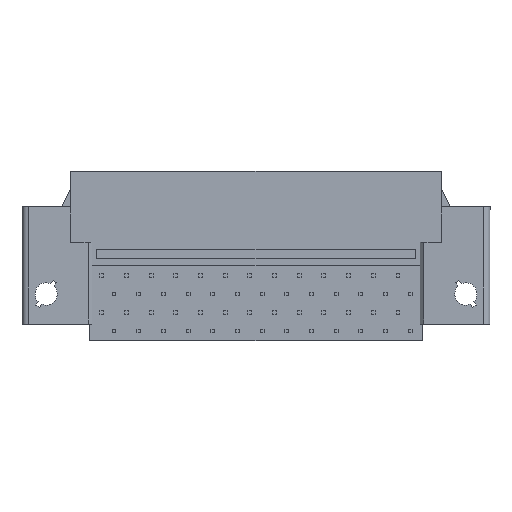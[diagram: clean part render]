
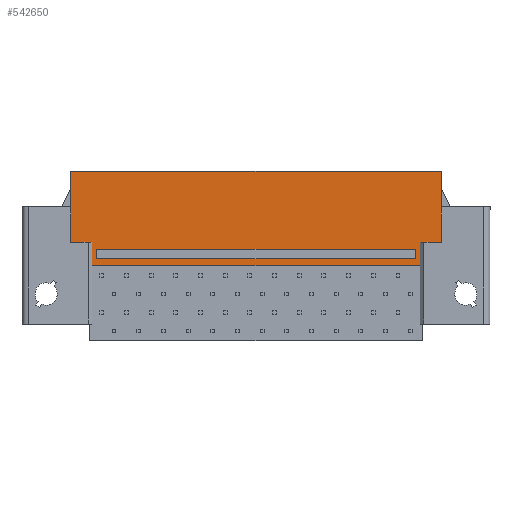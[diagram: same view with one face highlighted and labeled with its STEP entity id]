
A CAD part, front view. The second image highlights one B-rep face of the part: STEP entity #542650.
In plain terms, the highlighted planar face has unit normal (0, -1, 0).
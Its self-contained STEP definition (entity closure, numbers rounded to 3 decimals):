
#3510=CARTESIAN_POINT('',(-56.69,8.036,15.7));
#3520=VERTEX_POINT('',#3510);
#3690=CARTESIAN_POINT('',(-18.54,8.036,15.7));
#3700=VERTEX_POINT('',#3690);
#3730=CARTESIAN_POINT('',(-5.08,8.036,15.7));
#3740=DIRECTION('',(-1.,0.,0.));
#3750=VECTOR('',#3740,1.);
#3760=LINE('',#3730,#3750);
#3770=EDGE_CURVE('',#3700,#3520,#3760,.T.);
#30800=CARTESIAN_POINT('',(-18.54,8.036,12.05));
#30810=VERTEX_POINT('',#30800);
#87620=CARTESIAN_POINT('',(-54.49,8.036,
8.4));
#87630=VERTEX_POINT('',#87620);
#87660=CARTESIAN_POINT('',(-54.49,8.036,0.));
#87670=DIRECTION('',(0.,0.,1.));
#87680=VECTOR('',#87670,1.);
#87690=LINE('',#87660,#87680);
#87700=CARTESIAN_POINT('',(-54.49,8.036,6.));
#87710=VERTEX_POINT('',#87700);
#87720=EDGE_CURVE('',#87710,#87630,#87690,.T.);
#89480=CARTESIAN_POINT('',(-56.69,8.036,0.));
#89490=DIRECTION('',(0.,0.,-1.));
#89500=VECTOR('',#89490,1.);
#89510=LINE('',#89480,#89500);
#89520=CARTESIAN_POINT('',(-56.69,8.036,12.05));
#89530=VERTEX_POINT('',#89520);
#89540=EDGE_CURVE('',#3520,#89530,#89510,.T.);
#107060=CARTESIAN_POINT('',(-53.99,8.036,0.));
#107070=DIRECTION('',(0.,0.,-1.));
#107080=VECTOR('',#107070,1.);
#107090=LINE('',#107060,#107080);
#107100=CARTESIAN_POINT('',(-53.99,8.036,
7.7));
#107110=VERTEX_POINT('',#107100);
#107120=CARTESIAN_POINT('',(-53.99,8.036,
6.7));
#107130=VERTEX_POINT('',#107120);
#107140=EDGE_CURVE('',#107110,#107130,#107090,.T.);
#107630=CARTESIAN_POINT('',(-54.49,8.036,
8.4));
#107640=DIRECTION('',(-1.,0.,0.));
#107650=VECTOR('',#107640,1.);
#107660=LINE('',#107630,#107650);
#107670=CARTESIAN_POINT('',(-56.69,8.036,
8.4));
#107680=VERTEX_POINT('',#107670);
#107690=EDGE_CURVE('',#87630,#107680,#107660,.T.);
#294710=CARTESIAN_POINT('',(-56.69,8.036,0.));
#294720=DIRECTION('',(0.,0.,1.));
#294730=VECTOR('',#294720,1.);
#294740=LINE('',#294710,#294730);
#294750=EDGE_CURVE('',#107680,#89530,#294740,.T.);
#541810=CARTESIAN_POINT('',(7.62,8.036,6.));
#541820=DIRECTION('',(1.,0.,0.));
#541830=VECTOR('',#541820,1.);
#541840=LINE('',#541810,#541830);
#541850=CARTESIAN_POINT('',(-20.74,8.036,6.));
#541860=VERTEX_POINT('',#541850);
#541870=EDGE_CURVE('',#87710,#541860,#541840,.T.);
#541990=CARTESIAN_POINT('',(-67.19,8.036,15.7));
#542000=DIRECTION('',(-0.,1.,0.));
#542010=DIRECTION('',(1.,0.,0.));
#542020=AXIS2_PLACEMENT_3D('',#541990,#542000,#542010);
#542030=PLANE('',#542020);
#542040=CARTESIAN_POINT('',(-18.54,8.036,0.));
#542050=DIRECTION('',(0.,0.,1.));
#542060=VECTOR('',#542050,1.);
#542070=LINE('',#542040,#542060);
#542080=EDGE_CURVE('',#30810,#3700,#542070,.T.);
#542090=ORIENTED_EDGE('',*,*,#542080,.T.);
#542100=CARTESIAN_POINT('',(-18.54,8.036,0.));
#542110=DIRECTION('',(0.,0.,-1.));
#542120=VECTOR('',#542110,1.);
#542130=LINE('',#542100,#542120);
#542140=CARTESIAN_POINT('',(-18.54,8.036,
8.4));
#542150=VERTEX_POINT('',#542140);
#542160=EDGE_CURVE('',#30810,#542150,#542130,.T.);
#542170=ORIENTED_EDGE('',*,*,#542160,.F.);
#542180=CARTESIAN_POINT('',(-18.54,8.036,
8.4));
#542190=DIRECTION('',(-1.,0.,0.));
#542200=VECTOR('',#542190,1.);
#542210=LINE('',#542180,#542200);
#542220=CARTESIAN_POINT('',(-20.74,8.036,
8.4));
#542230=VERTEX_POINT('',#542220);
#542240=EDGE_CURVE('',#542150,#542230,#542210,.T.);
#542250=ORIENTED_EDGE('',*,*,#542240,.F.);
#542260=CARTESIAN_POINT('',(-20.74,8.036,0.));
#542270=DIRECTION('',(0.,0.,1.));
#542280=VECTOR('',#542270,1.);
#542290=LINE('',#542260,#542280);
#542300=EDGE_CURVE('',#541860,#542230,#542290,.T.);
#542310=ORIENTED_EDGE('',*,*,#542300,.T.);
#542320=ORIENTED_EDGE('',*,*,#541870,.T.);
#542330=ORIENTED_EDGE('',*,*,#87720,.F.);
#542340=ORIENTED_EDGE('',*,*,#107690,.F.);
#542350=ORIENTED_EDGE('',*,*,#294750,.F.);
#542360=ORIENTED_EDGE('',*,*,#89540,.T.);
#542370=ORIENTED_EDGE('',*,*,#3770,.T.);
#542380=EDGE_LOOP('',(#542370,#542360,#542350,#542340,#542330,#542320,
#542310,#542250,#542170,#542090));
#542390=FACE_OUTER_BOUND('',#542380,.T.);
#542400=ORIENTED_EDGE('',*,*,#107140,.F.);
#542410=CARTESIAN_POINT('',(12.7,8.036,6.7));
#542420=DIRECTION('',(1.,0.,0.));
#542430=VECTOR('',#542420,1.);
#542440=LINE('',#542410,#542430);
#542450=CARTESIAN_POINT('',(-21.24,8.036,
6.7));
#542460=VERTEX_POINT('',#542450);
#542470=EDGE_CURVE('',#107130,#542460,#542440,.T.);
#542480=ORIENTED_EDGE('',*,*,#542470,.F.);
#542490=CARTESIAN_POINT('',(-21.24,8.036,0.));
#542500=DIRECTION('',(0.,0.,1.));
#542510=VECTOR('',#542500,1.);
#542520=LINE('',#542490,#542510);
#542530=CARTESIAN_POINT('',(-21.24,8.036,
7.7));
#542540=VERTEX_POINT('',#542530);
#542550=EDGE_CURVE('',#542460,#542540,#542520,.T.);
#542560=ORIENTED_EDGE('',*,*,#542550,.F.);
#542570=CARTESIAN_POINT('',(-5.08,8.036,
7.7));
#542580=DIRECTION('',(-1.,0.,0.));
#542590=VECTOR('',#542580,1.);
#542600=LINE('',#542570,#542590);
#542610=EDGE_CURVE('',#542540,#107110,#542600,.T.);
#542620=ORIENTED_EDGE('',*,*,#542610,.F.);
#542630=EDGE_LOOP('',(#542620,#542560,#542480,#542400));
#542640=FACE_BOUND('',#542630,.T.);
#542650=ADVANCED_FACE('',(#542390,#542640),#542030,.F.);
